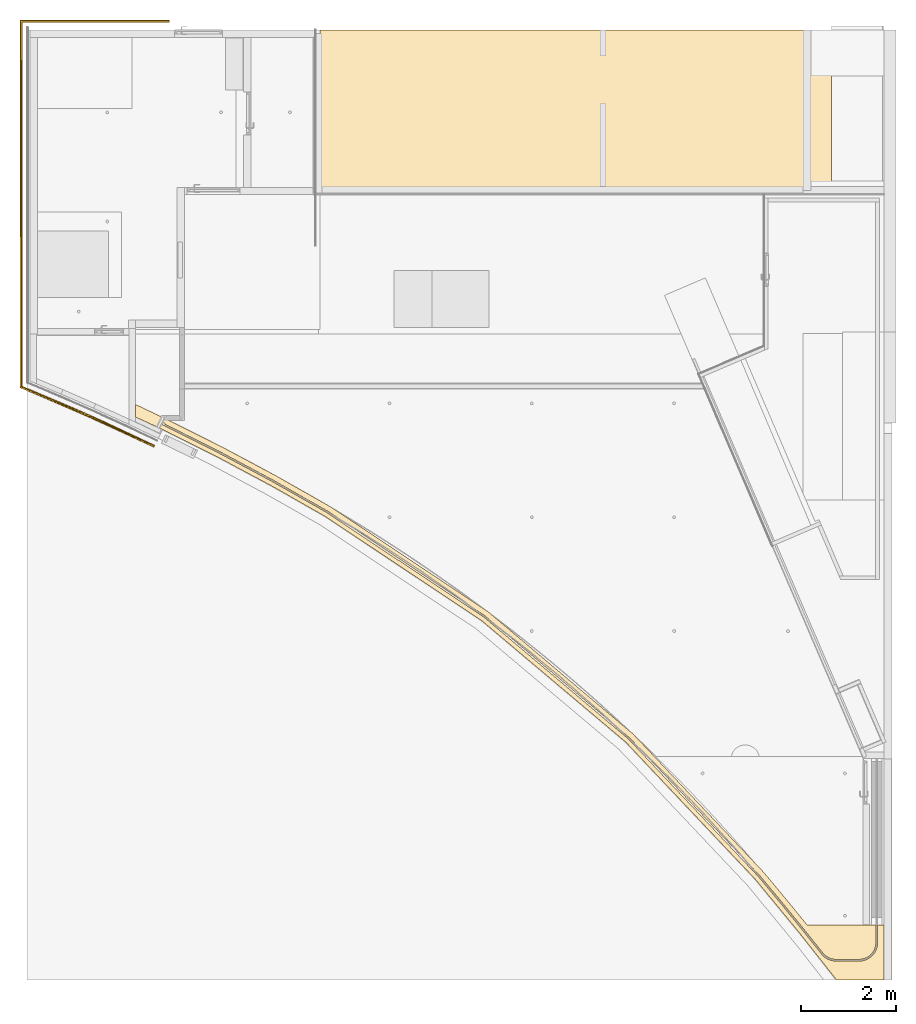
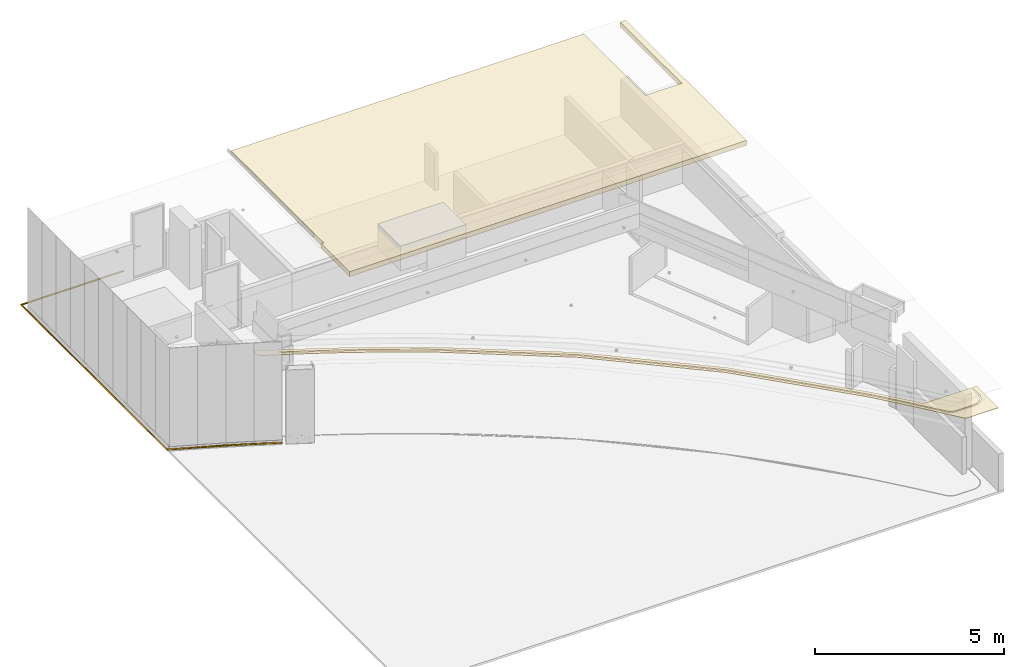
# One storey, part 11 of 16: 2 coverings, 1 railing.
"""IFC2X3 building model written with IfcOpenShell, lengths in millimetres."""

import ifcopenshell
import ifcopenshell.guid

model = None  # the IFC model being written
_history = None  # IfcOwnerHistory: only IFC2X3 demands one
_inside = {}  # id of a spatial element -> (the spatial element, [elements in it])
_under = {}  # id of a project, library or spatial element -> (it, [spatial elements below it])
_declared = {}  # id of a project -> (the project, [libraries it declares])
_typed = {}  # id of a type object -> (the type object, [elements of that type])
_made_of = {}  # id of a material, layer set ... -> (it, [elements and type objects made of it])


def new_model(schema):
    """Start an empty IFC model of exactly this schema.

    Asked for "IFC4X3", IfcOpenShell would pick the latest addendum, in which some entities
    have other attributes; the version numbers below select the first issue.
    IFC2X3 requires an IfcOwnerHistory on every rooted entity: one is made here for all.
    """
    global model, _history
    if schema == "IFC4X3":
        model = ifcopenshell.file(schema_version=(4, 3, 0, 0))
    else:
        model = ifcopenshell.file(schema=schema)
    _inside.clear()
    _under.clear()
    _declared.clear()
    _typed.clear()
    _made_of.clear()
    _history = None
    if model.schema == "IFC2X3":
        org = make("IfcOrganization", Name="unknown")
        user = make(
            "IfcPersonAndOrganization",
            ThePerson=make("IfcPerson", FamilyName="unknown"),
            TheOrganization=org,
        )
        app = make(
            "IfcApplication",
            ApplicationDeveloper=org,
            Version="unknown",
            ApplicationFullName="unknown",
            ApplicationIdentifier="unknown",
        )
        _history = make(
            "IfcOwnerHistory",
            OwningUser=user,
            OwningApplication=app,
            ChangeAction="ADDED",
            CreationDate=0,
        )
    return model


def make(cls, **values):
    """One entity of the class cls with the attributes given. An attribute that is None is left unset."""
    return model.create_entity(
        cls, **{name: value for name, value in values.items() if value is not None}
    )


def entity(cls, *values):
    """Any entity or typed value of the class cls, its attributes in the order of the schema. None: left unset."""
    e = model.create_entity(cls)
    for i, value in enumerate(values):
        if value is not None:
            e[i] = value
    return e


def rooted(cls, **values):
    """An entity with a GlobalId (a new one), such as an element, a storey or a relation."""
    return make(cls, GlobalId=ifcopenshell.guid.new(), OwnerHistory=_history, **values)


def si_unit(unit_type, name, prefix=None):
    """IfcSIUnit, for example si_unit("LENGTHUNIT", "METRE", prefix="MILLI")."""
    return make("IfcSIUnit", UnitType=unit_type, Prefix=prefix, Name=name)


def converted_unit(unit_type, name, factor, base, dimensions=None, offset=None):
    """IfcConversionBasedUnit, such as the inch: factor (a typed value) times the base unit."""
    return make(
        "IfcConversionBasedUnit"
        if offset is None
        else "IfcConversionBasedUnitWithOffset",
        ConversionOffset=offset,
        Dimensions=None
        if dimensions is None
        else entity("IfcDimensionalExponents", *dimensions),
        UnitType=unit_type,
        Name=name,
        ConversionFactor=make(
            "IfcMeasureWithUnit", ValueComponent=factor, UnitComponent=base
        ),
    )


def derived_unit(unit_type, elements):
    """IfcDerivedUnit: a product of units, each with its exponent."""
    return make(
        "IfcDerivedUnit",
        Elements=[
            make("IfcDerivedUnitElement", Unit=unit, Exponent=power)
            for unit, power in elements
        ],
        UnitType=unit_type,
    )


def assignment(units):
    """IfcUnitAssignment: the units of a project."""
    return None if units is None else make("IfcUnitAssignment", Units=units)


def point(xyz):
    """IfcCartesianPoint."""
    return None if xyz is None else make("IfcCartesianPoint", Coordinates=xyz)


def direction(xyz):
    """IfcDirection."""
    return None if xyz is None else make("IfcDirection", DirectionRatios=xyz)


def frame(location, z_axis=None, x_axis=None):
    """IfcAxis2Placement3D, a coordinate frame: its origin and axes. An axis left out is left unset."""
    return make(
        "IfcAxis2Placement3D",
        Location=point(location),
        Axis=direction(z_axis),
        RefDirection=direction(x_axis),
    )


def origin_with_axes():
    """The frame at (0, 0, 0) with the z axis (0, 0, 1) and the x axis (1, 0, 0) written out."""
    return frame((0.0, 0.0, 0.0), z_axis=(0.0, 0.0, 1.0), x_axis=(1.0, 0.0, 0.0))


def place(relative_to, where):
    """IfcLocalPlacement: puts the frame where relative to a parent placement (None: the world)."""
    return make(
        "IfcLocalPlacement", PlacementRelTo=relative_to, RelativePlacement=where
    )


def context(
    kind, dimensions, precision=None, world=None, true_north=None, identifier=None
):
    """IfcGeometricRepresentationContext, for example the 3D "Model" context."""
    return make(
        "IfcGeometricRepresentationContext",
        ContextIdentifier=identifier,
        ContextType=kind,
        CoordinateSpaceDimension=dimensions,
        Precision=precision,
        WorldCoordinateSystem=world,
        TrueNorth=true_north,
    )


def subcontext(parent, identifier, kind, view, scale=None):
    """IfcGeometricRepresentationSubContext, for example "Body" below "Model"."""
    return make(
        "IfcGeometricRepresentationSubContext",
        ContextIdentifier=identifier,
        ContextType=kind,
        ParentContext=parent,
        TargetScale=scale,
        TargetView=view,
    )


def project(units=None, contexts=None):
    """IfcProject with its units and contexts."""
    return rooted(
        "IfcProject",
        Name="project",
        RepresentationContexts=contexts,
        UnitsInContext=assignment(units),
    )


def spatial(cls, under=None, at=None, **own):
    """A site, building, storey or space (cls), placed at a placement, below another one or the project."""
    s = rooted(cls, ObjectPlacement=at, **own)
    if under is not None:
        _under.setdefault(under.id(), (under, []))[1].append(s)
    return s


def faces_of(points, faces, orient=None, outer=None):
    """IfcFace entities. A face is a list of loops; a loop is a list of indices into points, from 0.

    orient and outer hold one flag for each loop. By default every Orientation is true, the
    first loop of a face is its IfcFaceOuterBound and the others are IfcFaceBound.
    """
    made = []
    for i, loops in enumerate(faces):
        bounds = []
        for j, loop in enumerate(loops):
            is_outer = j == 0 if outer is None else outer[i][j]
            bounds.append(
                make(
                    "IfcFaceOuterBound" if is_outer else "IfcFaceBound",
                    Bound=make("IfcPolyLoop", Polygon=[points[k] for k in loop]),
                    Orientation=True if orient is None else orient[i][j],
                )
            )
        made.append(make("IfcFace", Bounds=bounds))
    return made


def faceted_brep(points, faces, orient=None, outer=None, voids=None):
    """IfcFacetedBrep: a solid bounded by flat faces; with voids (closed shells), ...WithVoids."""
    shared = [point(p) for p in points]
    hull = make("IfcClosedShell", CfsFaces=faces_of(shared, faces, orient, outer))
    if voids is None:
        return make("IfcFacetedBrep", Outer=hull)
    return make(
        "IfcFacetedBrepWithVoids",
        Outer=hull,
        Voids=[
            make(cls, CfsFaces=faces_of(shared, fs, o, b)) for cls, fs, o, b in voids
        ],
    )


def shape(context_of_items, identifier, shape_type, items):
    """IfcShapeRepresentation: the items that make up one representation, for example the "Body"."""
    return make(
        "IfcShapeRepresentation",
        ContextOfItems=context_of_items,
        RepresentationIdentifier=identifier,
        RepresentationType=shape_type,
        Items=items,
    )


def material(Name=None, Category=None):
    """IfcMaterial."""
    return make("IfcMaterial", Name=Name, Category=Category)


def made_of(thing, what):
    """Note that an element or type object is made of a material, layer set ...; save() writes the relation."""
    if what is not None:
        _made_of.setdefault(what.id(), (what, []))[1].append(thing)
    return thing


def type_object(cls, material=None, **own):
    """A type object (cls), such as IfcWallType, which elements share."""
    return made_of(rooted(cls, **own), material)


def element(
    cls,
    number,
    at=None,
    inside=None,
    cuts=None,
    type_object=None,
    material=None,
    context=None,
    identifier="Body",
    shape_type=None,
    held_by="IfcProductDefinitionShape",
    body=None,
    shapes=None,
    **own,
):
    """One element of the class cls, such as IfcWall. Its Tag is "e" and its number.

    at: its placement. inside: the storey or other place that contains it. cuts: it is an
    opening in that element (IfcRelVoidsElement). A single representation is given by context,
    identifier, shape_type and body (its items); several are given by shapes. held_by: the class
    of the entity that holds the representations. save() writes the other relations.
    """
    e = rooted(cls, Tag="e%d" % number, ObjectPlacement=at, **own)
    if body is not None:
        shapes = [shape(context, identifier, shape_type, body)]
    if shapes is not None:
        e.Representation = make(held_by, Representations=shapes)
    if inside is not None:
        _inside.setdefault(inside.id(), (inside, []))[1].append(e)
    if cuts is not None:
        rooted(
            "IfcRelVoidsElement", RelatingBuildingElement=cuts, RelatedOpeningElement=e
        )
    if type_object is not None:
        _typed.setdefault(type_object.id(), (type_object, []))[1].append(e)
    return made_of(e, material)


def aggregate(whole, parts):
    """IfcRelAggregates: a whole, such as a stair, and the parts it consists of."""
    return rooted("IfcRelAggregates", RelatingObject=whole, RelatedObjects=parts)


def save(model, path):
    """Write the relations noted so far, then the file.

    IfcRelAggregates (storeys below a building ...), IfcRelContainedInSpatialStructure (elements
    in a storey), IfcRelDefinesByType, IfcRelAssociatesMaterial and IfcRelDeclares: one each for
    every whole, place, type object, material and project.
    """
    for whole, parts in _under.values():
        aggregate(whole, parts)
    for where, things in _inside.values():
        rooted(
            "IfcRelContainedInSpatialStructure",
            RelatedElements=things,
            RelatingStructure=where,
        )
    for kind, things in _typed.values():
        rooted("IfcRelDefinesByType", RelatedObjects=things, RelatingType=kind)
    for what, things in _made_of.values():
        rooted("IfcRelAssociatesMaterial", RelatedObjects=things, RelatingMaterial=what)
    for by, libraries in _declared.values():
        rooted("IfcRelDeclares", RelatingContext=by, RelatedDefinitions=libraries)
    model.write(path)


model = new_model("IFC2X3")

# Units and contexts
model_context = context("Model", 3, precision=0.01, world=frame((0.0, 4.29681676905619e-09, 0.0)), true_north=direction((4.01073788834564e-13, 1.0)))
plan_context = context("Plan", 3, precision=0.01, world=frame((0.0, 4.29681676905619e-09, 0.0)), true_north=direction((4.01073788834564e-13, 1.0)))
body_context = subcontext(model_context, "Body", "Model", "MODEL_VIEW")
ifc_project = project(units=[converted_unit("PLANEANGLEUNIT", "DEGREE", entity("IfcPositiveLengthMeasure", 0.0174532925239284), si_unit("PLANEANGLEUNIT", "RADIAN"), dimensions=[0, 0, 0, 0, 0, 0, 0]), si_unit("AREAUNIT", "SQUARE_METRE"), si_unit("LENGTHUNIT", "METRE", prefix="MILLI"), si_unit("MASSUNIT", "GRAM", prefix="KILO"), si_unit("POWERUNIT", "WATT"), si_unit("PRESSUREUNIT", "PASCAL"), si_unit("FORCEUNIT", "NEWTON", prefix="KILO"), si_unit("ELECTRICCURRENTUNIT", "AMPERE"), si_unit("THERMODYNAMICTEMPERATUREUNIT", "DEGREE_CELSIUS"), si_unit("TIMEUNIT", "SECOND"), si_unit("VOLUMEUNIT", "CUBIC_METRE"), derived_unit("LINEARVELOCITYUNIT", [(si_unit("LENGTHUNIT", "METRE"), 1), (si_unit("TIMEUNIT", "SECOND"), -1)]), derived_unit("VOLUMETRICFLOWRATEUNIT", [(si_unit("VOLUMEUNIT", "CUBIC_METRE"), 1), (si_unit("TIMEUNIT", "SECOND"), -1)]), derived_unit("THERMALTRANSMITTANCEUNIT", [(si_unit("POWERUNIT", "WATT"), 1), (si_unit("THERMODYNAMICTEMPERATUREUNIT", "KELVIN"), -1), (si_unit("AREAUNIT", "SQUARE_METRE"), -1)])], contexts=[model_context, plan_context])

# Site, building, storey
site_placement = place(None, origin_with_axes())
site = spatial("IfcSite", under=ifc_project, at=site_placement, Name="ENGM", CompositionType="ELEMENT")
building_placement = place(site_placement, origin_with_axes())
building = spatial("IfcBuilding", under=site, at=building_placement, Name="TS", CompositionType="ELEMENT")
storey_placement = place(building_placement, frame((0.0, 0.0, 204000.0), z_axis=(0.0, 0.0, 1.0), x_axis=(1.0, 0.0, 0.0)))
storey = spatial("IfcBuildingStorey", under=building, at=storey_placement, Name="Nivå D", CompositionType="ELEMENT", Elevation=204000.0)

# Coverings
covering_type_1 = type_object("IfcCoveringType", Name="Compound Ceiling:A255 - Brannskille NY  - 50 mm brannisol. + TRP 70 mm + 3lag gips", PredefinedType="CEILING")
covering_1_placement = place(storey_placement, origin_with_axes())
element("IfcCovering", 1, at=covering_1_placement, inside=storey, type_object=covering_type_1, Name="Compound Ceiling:A255 - Brannskille NY  - 50 mm brannisol. + TRP 70 mm + 3lag gips", ObjectType="Compound Ceiling:A255 - Brannskille NY  - 50 mm brannisol. + TRP 70 mm + 3lag gips", PredefinedType="CEILING", context=body_context, shape_type="Brep", body=[
    faceted_brep([(530814.510364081, 417600.000000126, 2875.05682846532), (530814.510364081, 417600.000000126, 3032.55682846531), (530814.510364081, 417686.854764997, 3032.55682846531), (530814.510364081, 417686.854764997, 2875.05682846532), (530814.510364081, 420870.191453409, 3032.55682846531), (530814.510364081, 420870.191453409, 2875.05682846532), (531925.000000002, 420870.191453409, 2875.05682846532), (531925.000000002, 420870.191453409, 3032.55682846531), (531925.000000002, 417600.000000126, 3032.55682846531), (531925.000000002, 417600.000000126, 2875.05682846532), (520040.0, 420870.191453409, 2875.05682846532), (520040.0, 420870.191453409, 3032.55682846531), (520040.0, 415959.999999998, 3032.55682846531), (520040.0, 415959.999999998, 2875.05682846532), (519960.016015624, 415959.999999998, 3032.55682846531), (519960.016015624, 415959.999999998, 2875.05682846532), (519960.016015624, 414458.999999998, 3032.55682846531), (519960.016015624, 414458.999999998, 2875.05682846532), (532095.000000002, 414458.999999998, 3032.55682846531), (532095.000000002, 414458.999999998, 2875.05682846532), (532095.000000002, 420870.191453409, 2875.05682846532), (532095.000000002, 420870.191453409, 3032.55682846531)], [[[0, 1, 2, 3]], [[4, 5, 3, 2]], [[6, 7, 8, 9]], [[9, 8, 1, 0]], [[10, 11, 12, 13]], [[13, 12, 14, 15]], [[15, 14, 16, 17]], [[18, 19, 17, 16]], [[19, 20, 6, 9, 0, 5, 10, 13, 15, 17]], [[11, 4, 1, 8, 7, 21, 18, 16, 14, 12]], [[20, 19, 18, 21]], [[21, 7, 6, 20]], [[11, 10, 5, 4]]], orient=[[False], [False], [False], [False], [False], [False], [False], [False], [False], [False], [False], [False], [False]]),
])
covering_type_2 = type_object("IfcCoveringType", Name="Compound Ceiling:A255 - HI-G01", PredefinedType="CEILING")
covering_2_placement = place(storey_placement, origin_with_axes())
element("IfcCovering", 2, at=covering_2_placement, inside=storey, type_object=covering_type_2, Name="Compound Ceiling:A255 - HI-G01", ObjectType="Compound Ceiling:A255 - HI-G01", PredefinedType="CEILING", context=body_context, shape_type="Brep", body=[
    faceted_brep([(516816.716614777, 412657.875272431, 2700.0), (516816.716614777, 412657.875272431, 2715.00000000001), (516149.500000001, 412975.72287953, 2715.00000000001), (516149.500000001, 412975.72287953, 2700.0), (530307.282336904, 401999.999999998, 2700.0), (530307.282336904, 401999.999999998, 2715.00000000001), (530001.677511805, 402376.306918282, 2715.00000000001), (530001.677511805, 402376.306918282, 2700.0), (529693.352522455, 402750.388335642, 2715.00000000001), (529693.352522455, 402750.388335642, 2700.0), (529382.32357505, 403122.224589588, 2715.00000000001), (529382.32357505, 403122.224589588, 2700.0), (526636.859621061, 406028.956311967, 2715.00000000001), (526636.859621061, 406028.956311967, 2700.0), (523580.298113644, 408606.570204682, 2715.00000000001), (523580.298113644, 408606.570204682, 2700.0), (520251.853086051, 410821.996873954, 2715.00000000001), (520251.853086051, 410821.996873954, 2700.0), (519123.174259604, 411464.257238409, 2715.00000000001), (519123.174259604, 411464.257238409, 2700.0), (517977.860237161, 412076.360219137, 2715.00000000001), (517977.860237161, 412076.360219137, 2700.0), (516149.500000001, 412709.881691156, 2715.00000000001), (516149.500000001, 412709.881691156, 2700.0), (516717.148195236, 412450.122353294, 2715.00000000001), (516717.148195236, 412450.122353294, 2700.0), (517872.819364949, 411871.326344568, 2715.00000000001), (517872.819364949, 411871.326344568, 2700.0), (519012.731784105, 411262.080623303, 2715.00000000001), (519012.731784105, 411262.080623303, 2700.0), (520136.08334028, 410622.813892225, 2715.00000000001), (520136.08334028, 410622.813892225, 2700.0), (523443.044877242, 408421.913320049, 2715.00000000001), (523443.044877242, 408421.913320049, 2700.0), (526479.811852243, 405861.053254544, 2715.00000000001), (526479.811852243, 405861.053254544, 2700.0), (529207.399637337, 402973.108861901, 2715.00000000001), (529207.399637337, 402973.108861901, 2700.0), (530137.586345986, 401844.208629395, 2715.00000000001), (530137.586345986, 401844.208629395, 2700.0), (530924.193231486, 400845.676658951, 2715.00000000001), (530924.193231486, 400845.676658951, 2700.0), (531922.500000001, 400845.676658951, 2700.0), (531922.500000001, 400845.676658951, 2715.00000000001), (531922.500000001, 401999.999999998, 2715.00000000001), (531922.500000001, 401999.999999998, 2700.0), (531787.000000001, 401999.999999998, 2715.00000000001), (531787.000000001, 401999.999999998, 2700.0), (531787.000000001, 401595.803834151, 2715.00000000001), (531787.000000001, 401595.803834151, 2700.0), (531775.427645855, 401533.258689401, 2715.00000000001), (531775.427645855, 401533.258689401, 2700.0), (531753.842428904, 401473.42648301, 2715.00000000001), (531753.842428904, 401473.42648301, 2700.0), (531722.818509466, 401417.898733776, 2715.00000000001), (531722.818509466, 401417.898733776, 2700.0), (531683.181114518, 401368.152463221, 2715.00000000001), (531683.181114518, 401368.152463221, 2700.0), (531635.984586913, 401325.510907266, 2715.00000000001), (531635.984586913, 401325.510907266, 2700.0), (531582.484340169, 401291.108318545, 2715.00000000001), (531582.484340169, 401291.108318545, 2700.0), (531524.10346485, 401265.85979563, 2715.00000000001), (531524.10346485, 401265.85979563, 2700.0), (531462.394874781, 401250.43694168, 2715.00000000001), (531462.394874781, 401250.43694168, 2700.0), (531399.000000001, 401245.249999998, 2715.00000000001), (531399.000000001, 401245.249999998, 2700.0), (530911.000000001, 401245.249999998, 2715.00000000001), (530911.000000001, 401245.249999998, 2700.0), (530849.90544654, 401250.065037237, 2715.00000000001), (530849.90544654, 401250.065037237, 2700.0), (530790.319470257, 401264.391253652, 2715.00000000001), (530790.319470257, 401264.391253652, 2700.0), (530733.713397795, 401287.874899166, 2715.00000000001), (530733.713397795, 401287.874899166, 2700.0), (530681.484974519, 401319.936103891, 2715.00000000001), (530681.484974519, 401319.936103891, 2700.0), (530634.923850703, 401359.783196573, 2715.00000000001), (530634.923850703, 401359.783196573, 2700.0), (530186.943220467, 401921.42587565, 2715.00000000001), (530186.943220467, 401921.42587565, 2700.0), (529732.941225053, 402478.212488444, 2715.00000000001), (529732.941225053, 402478.212488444, 2700.0), (529272.970499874, 403030.078483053, 2715.00000000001), (529272.970499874, 403030.078483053, 2700.0), (526538.628397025, 405925.035059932, 2715.00000000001), (526538.628397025, 405925.035059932, 2700.0), (523494.448994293, 408492.207060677, 2715.00000000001), (523494.448994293, 408492.207060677, 2700.0), (520179.487469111, 410698.659055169, 2715.00000000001), (520179.487469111, 410698.659055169, 2700.0), (519039.491673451, 411347.101310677, 2715.00000000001), (519039.491673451, 411347.101310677, 2700.0), (517882.489563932, 411964.688463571, 2715.00000000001), (517882.489563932, 411964.688463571, 2700.0), (516709.31606769, 412550.974844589, 2715.00000000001), (516709.31606769, 412550.974844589, 2700.0), (516730.683951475, 412595.843195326, 2715.00000000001), (516730.683951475, 412595.843195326, 2700.0), (516775.904723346, 412574.307476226, 2715.00000000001), (516775.904723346, 412574.307476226, 2700.0), (516769.036182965, 412559.856849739, 2715.00000000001), (516769.036182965, 412559.856849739, 2700.0), (517927.652318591, 411979.612193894, 2715.00000000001), (517927.652318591, 411979.612193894, 2700.0), (519070.472657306, 411368.844739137, 2715.00000000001), (519070.472657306, 411368.844739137, 2700.0), (520196.693280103, 410727.984130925, 2715.00000000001), (520196.693280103, 410727.984130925, 2700.0), (523514.860673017, 408519.398297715, 2715.00000000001), (523514.860673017, 408519.398297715, 2700.0), (526561.984072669, 405949.743609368, 2715.00000000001), (526561.984072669, 405949.743609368, 2700.0), (529298.970531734, 403051.987347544, 2715.00000000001), (529298.970531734, 403051.987347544, 2700.0), (529754.854736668, 402505.080873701, 2715.00000000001), (529754.854736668, 402505.080873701, 2700.0), (530204.879989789, 401953.343281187, 2715.00000000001), (530204.879989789, 401953.343281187, 2700.0), (530648.995098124, 401396.837333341, 2715.00000000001), (530648.995098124, 401396.837333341, 2700.0), (530691.964234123, 401356.357177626, 2715.00000000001), (530691.964234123, 401356.357177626, 2700.0), (530741.094086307, 401323.627263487, 2715.00000000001), (530741.094086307, 401323.627263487, 2700.0), (530795.002802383, 401299.568169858, 2715.00000000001), (530795.002802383, 401299.568169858, 2700.0), (530852.174117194, 401284.856595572, 2715.00000000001), (530852.174117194, 401284.856595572, 2700.0), (530911.000000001, 401279.906326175, 2715.00000000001), (530911.000000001, 401279.906326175, 2700.0), (531401.000000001, 401279.906326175, 2715.00000000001), (531401.000000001, 401279.906326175, 2700.0), (531456.064931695, 401284.240030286, 2715.00000000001), (531456.064931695, 401284.240030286, 2700.0), (531509.773982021, 401297.134432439, 2715.00000000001), (531509.773982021, 401297.134432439, 2700.0), (531560.80465591, 401318.272029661, 2715.00000000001), (531560.80465591, 401318.272029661, 2700.0), (531607.900408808, 401347.132344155, 2715.00000000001), (531607.900408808, 401347.132344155, 2700.0), (531649.901586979, 401383.004739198, 2715.00000000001), (531649.901586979, 401383.004739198, 2700.0), (531685.773982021, 401425.005917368, 2715.00000000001), (531685.773982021, 401425.005917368, 2700.0), (531714.634296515, 401472.101670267, 2715.00000000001), (531714.634296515, 401472.101670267, 2700.0), (531735.771893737, 401523.132344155, 2715.00000000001), (531735.771893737, 401523.132344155, 2700.0), (531748.666295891, 401576.841394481, 2715.00000000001), (531748.666295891, 401576.841394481, 2700.0), (531753.000000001, 401631.906326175, 2715.00000000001), (531753.000000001, 401631.906326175, 2700.0), (531753.000000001, 401999.999999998, 2715.00000000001), (531753.000000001, 401999.999999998, 2700.0)], [[[0, 1, 2, 3]], [[4, 5, 6, 7]], [[7, 6, 8, 9]], [[9, 8, 10, 11]], [[11, 10, 12, 13]], [[13, 12, 14, 15]], [[15, 14, 16, 17]], [[17, 16, 18, 19]], [[19, 18, 20, 21]], [[21, 20, 1, 0]], [[3, 2, 22, 23]], [[23, 22, 24, 25]], [[25, 24, 26, 27]], [[27, 26, 28, 29]], [[29, 28, 30, 31]], [[31, 30, 32, 33]], [[33, 32, 34, 35]], [[35, 34, 36, 37]], [[37, 36, 38, 39]], [[40, 41, 39, 38]], [[42, 43, 44, 45]], [[45, 44, 46, 47]], [[47, 46, 48, 49]], [[49, 48, 50, 51]], [[51, 50, 52, 53]], [[53, 52, 54, 55]], [[55, 54, 56, 57]], [[57, 56, 58, 59]], [[59, 58, 60, 61]], [[61, 60, 62, 63]], [[63, 62, 64, 65]], [[65, 64, 66, 67]], [[67, 66, 68, 69]], [[69, 68, 70, 71]], [[71, 70, 72, 73]], [[73, 72, 74, 75]], [[75, 74, 76, 77]], [[77, 76, 78, 79]], [[79, 78, 80, 81]], [[81, 80, 82, 83]], [[83, 82, 84, 85]], [[85, 84, 86, 87]], [[87, 86, 88, 89]], [[89, 88, 90, 91]], [[91, 90, 92, 93]], [[93, 92, 94, 95]], [[95, 94, 96, 97]], [[97, 96, 98, 99]], [[99, 98, 100, 101]], [[101, 100, 102, 103]], [[103, 102, 104, 105]], [[105, 104, 106, 107]], [[107, 106, 108, 109]], [[109, 108, 110, 111]], [[111, 110, 112, 113]], [[113, 112, 114, 115]], [[115, 114, 116, 117]], [[117, 116, 118, 119]], [[119, 118, 120, 121]], [[121, 120, 122, 123]], [[123, 122, 124, 125]], [[125, 124, 126, 127]], [[127, 126, 128, 129]], [[129, 128, 130, 131]], [[131, 130, 132, 133]], [[133, 132, 134, 135]], [[135, 134, 136, 137]], [[137, 136, 138, 139]], [[139, 138, 140, 141]], [[141, 140, 142, 143]], [[143, 142, 144, 145]], [[145, 144, 146, 147]], [[147, 146, 148, 149]], [[149, 148, 150, 151]], [[151, 150, 152, 153]], [[153, 152, 154, 155]], [[155, 154, 5, 4]], [[41, 42, 45, 47, 49, 51, 53, 55, 57, 59, 61, 63, 65, 67, 69, 71, 73, 75, 77, 79, 81, 83, 85, 87, 89, 91, 93, 95, 97, 99, 101, 103, 105, 107, 109, 111, 113, 115, 117, 119, 121, 123, 125, 127, 129, 131, 133, 135, 137, 139, 141, 143, 145, 147, 149, 151, 153, 155, 4, 7, 9, 11, 13, 15, 17, 19, 21, 0, 3, 23, 25, 27, 29, 31, 33, 35, 37, 39]], [[43, 40, 38, 36, 34, 32, 30, 28, 26, 24, 22, 2, 1, 20, 18, 16, 14, 12, 10, 8, 6, 5, 154, 152, 150, 148, 146, 144, 142, 140, 138, 136, 134, 132, 130, 128, 126, 124, 122, 120, 118, 116, 114, 112, 110, 108, 106, 104, 102, 100, 98, 96, 94, 92, 90, 88, 86, 84, 82, 80, 78, 76, 74, 72, 70, 68, 66, 64, 62, 60, 58, 56, 54, 52, 50, 48, 46, 44]], [[43, 42, 41, 40]]], orient=[[False], [False], [False], [False], [False], [False], [False], [False], [False], [False], [False], [False], [False], [False], [False], [False], [False], [False], [False], [False], [False], [False], [False], [False], [False], [False], [False], [False], [False], [False], [False], [False], [False], [False], [False], [False], [False], [False], [False], [False], [False], [False], [False], [False], [False], [False], [False], [False], [False], [False], [False], [False], [False], [False], [False], [False], [False], [False], [False], [False], [False], [False], [False], [False], [False], [False], [False], [False], [False], [False], [False], [False], [False], [False], [False], [False], [False], [False], [False], [False]]),
])

# Railing
ifc_material = material(Name="<Unnamed>")
railing_type = type_object("IfcRailingType", Name="Railing:A247 Fendring - FE-S01 - Avviser, montert m. brakett mot dekke, 1 rør Ø=49 mm", PredefinedType="NOTDEFINED")
railing_placement = place(storey_placement, frame((513710.904727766, 412070.455411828, 120.404727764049), z_axis=(0.0, 0.0, 1.0), x_axis=(1.0, 0.0, 0.0)))
element("IfcRailing", 3, at=railing_placement, inside=storey, type_object=railing_type, material=ifc_material, Name="Railing:A247 Fendring - FE-S01 - Avviser, montert m. brakett mot dekke, 1 rør Ø=49 mm", ObjectType="Railing:A247 Fendring - FE-S01 - Avviser, montert m. brakett mot dekke, 1 rør Ø=49 mm", PredefinedType="NOTDEFINED", context=body_context, shape_type="Brep", body=[
    faceted_brep([(10.9702722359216, 9000.36104158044, 42.8332485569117), (12.4644629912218, 1266.32006093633, 35.8504339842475), (13.0626681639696, 1266.72210427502, 36.3598082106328), (16.0875265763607, 1268.75505923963, 38.9354879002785), (33.2067173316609, 1280.26003130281, 48.1906496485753), (39.0952722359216, 8972.23604158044, 48.2459073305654), (32.8452722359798, 8978.4860415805, 48.2459073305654), (14.0952722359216, 8997.23604158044, 48.2459073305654), (42.2202722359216, 8969.11104158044, 42.8332485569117), (38.4605901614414, 1283.78998900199, 42.0205418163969), (40.7085930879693, 1285.29989713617, 39.3805044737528), (45.3452722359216, 8965.98604158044, 37.420589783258), (43.7144629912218, 1287.31994670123, 35.8504339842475), (44.0848638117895, 1287.5681786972, 35.415438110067), (8.84139940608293, 1263.88506263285, 32.7653800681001), (7.84527223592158, 9003.48604158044, 37.420589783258), (5.29019435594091, 9006.04111946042, 32.9950650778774), (4.72027223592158, 9006.61104158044, 32.0079310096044), (30.5797809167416, 1278.49505245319, 51.2757035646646), (35.8336537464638, 1282.02501015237, 45.1055957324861), (37.3323223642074, 1283.03161557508, 43.3455708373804), (33.9560516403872, 1280.7633340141, 47.310637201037), (41.0875265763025, 1285.55496785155, 38.9354879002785), (46.3413994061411, 1289.08492555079, 32.7653800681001), (48.4702722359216, 8962.86104158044, 32.0079310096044), (20.3452722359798, 8990.98604158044, 48.2459073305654), (26.9567173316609, 1276.06005414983, 48.1906496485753), (26.5952722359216, 8984.73604158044, 48.2459073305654), (47.8400680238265, 1290.09103932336, 31.0053551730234), (5.21833582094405, 1261.45006432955, 29.6803261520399), (1.59527223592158, 9009.73604158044, 26.5952722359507), (1.59527223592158, 1259.01506602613, 26.5952722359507), (19.7105901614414, 1271.19005754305, 42.0205418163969), (10.0378097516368, 1264.68914931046, 33.7841285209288), (23.333653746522, 1273.62505584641, 45.1055957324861), (48.9683358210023, 1290.84990440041, 29.6803261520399), (51.5952722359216, 8959.73604158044, 26.5952722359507), (51.5952722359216, 1292.61488325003, 26.5952722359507), (5.8165409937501, 1261.85210766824, 30.1897003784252), (42.2202722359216, 8969.11104158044, 10.3572959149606), (40.7253259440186, 1285.31070186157, 17.3402324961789), (40.1272782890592, 1284.90889118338, 16.8310345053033), (37.102010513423, 1282.8763024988, 14.2552192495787), (4.72027223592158, 9006.61104158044, 21.182613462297), (3.46927738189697, 1260.27551885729, 24.3942730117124), (19.98206422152, 1271.37337245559, 5.00017950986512), (14.0952722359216, 8997.23604158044, 4.94463714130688), (20.3452722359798, 8990.98604158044, 4.94463714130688), (22.6087487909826, 1273.13870504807, 1.91516626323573), (6.84864137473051, 1262.5467094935, 20.4252457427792), (5.3503337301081, 1261.53892888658, 22.1849922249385), (7.84527223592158, 9003.48604158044, 15.7699546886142), (10.9702722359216, 9000.36104158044, 10.3572959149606), (12.102010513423, 1266.07737467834, 14.2552192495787), (14.7286950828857, 1267.84270727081, 11.1702060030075), (12.4812336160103, 1266.3317700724, 13.80982572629), (17.3553796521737, 1269.60803986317, 8.0851927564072), (15.8570720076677, 1268.60074839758, 9.84493923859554), (19.232910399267, 1270.86972672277, 5.88005275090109), (39.0952722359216, 8972.23604158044, 4.94463714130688), (45.3452722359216, 8965.98604158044, 15.7699546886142), (44.3486413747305, 1287.74510122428, 20.4252457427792), (47.9003501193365, 8963.43096369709, 20.1954793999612), (48.4702722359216, 8962.86104158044, 21.182613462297), (47.9719568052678, 1290.17950058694, 23.5102589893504), (47.3739091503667, 1289.77768990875, 23.0010609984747), (9.47532594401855, 1264.31204208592, 17.3402324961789), (9.10539522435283, 1264.06279174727, 17.7747122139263), (33.4786950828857, 1280.4419031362, 11.1702060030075), (43.1525460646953, 1286.94147986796, 19.4068497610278), (29.8553796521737, 1278.00750377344, 8.0851927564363), (26.2320642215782, 1275.57310441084, 5.00017950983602), (32.8452722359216, 8978.48604158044, 4.94463714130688), (26.5952722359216, 8984.73604158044, 4.94463714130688), (5.29019435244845, 9006.04111946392, 20.1954793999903), (3151.59527223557, 8959.7360415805, 26.5952722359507), (3151.59527223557, 8963.43096692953, 20.1954738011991), (3151.59527223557, 8967.12589227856, 13.7956753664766), (3151.59527223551, 8969.68096692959, 9.37015625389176), (3151.59527223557, 8972.2360415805, 4.94463714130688), (3151.59527223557, 8978.4860415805, 4.94463714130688), (3151.59527223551, 8984.7360415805, 4.94463714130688), (3151.59527223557, 8990.9860415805, 4.94463714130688), (3151.59527223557, 8997.2360415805, 4.94463714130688), (3151.59527223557, 9000.3610415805, 10.3572959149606), (3151.59527223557, 9003.4860415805, 15.7699546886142), (3151.59527223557, 9006.6110415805, 21.182613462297), (3151.59527223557, 9009.7360415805, 26.5952722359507), (3151.59527223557, 9006.6110415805, 32.0079310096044), (3151.59527223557, 9003.4860415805, 37.420589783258), (3151.59527223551, 9000.36104158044, 42.8332485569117), (3151.59527223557, 8997.2360415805, 48.2459073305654), (3151.59527223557, 8990.9860415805, 48.2459073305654), (3151.59527223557, 8984.7360415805, 48.2459073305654), (3151.59527223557, 8978.4860415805, 48.2459073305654), (3151.59527223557, 8972.2360415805, 48.2459073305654), (3151.59527223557, 8969.11104158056, 42.8332485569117), (3151.59527223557, 8965.9860415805, 37.420589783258), (3151.59527223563, 8963.43096692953, 32.9950706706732), (1330.97472781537, 699.190030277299, 11.6090131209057), (1424.81524587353, 653.972586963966, 17.3743716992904), (1751.36537498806, 505.588872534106, 21.9020742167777), (1455.33418894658, 691.244631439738, 17.3564224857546), (1140.18586733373, 831.848643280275, 21.8934406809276), (2844.13526725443, 42.78047218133, 23.0388500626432), (2829.81578853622, 13.2181147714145, 11.2071529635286), (2828.6898090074, 10.8935462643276, 14.2847768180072), (2827.25087783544, 7.92289360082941, 18.2177869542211), (1676.45935619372, 583.557395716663, 7.01268941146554), (2838.5933447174, 31.3392529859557, 12.3695835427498), (1339.09774735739, 729.33075502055, 4.06667409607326), (2842.28795974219, 38.9667324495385, 19.4824278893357), (1690.34379262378, 550.841706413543, 3.10144665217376), (1449.79995405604, 665.518710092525, 1.72255589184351), (2833.19372712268, 20.1918202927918, 1.97428140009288), (2824.18589089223, 1.59527223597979, 26.5952722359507), (1422.94549592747, 652.875918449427, 26.5952722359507), (1458.64439377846, 691.706436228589, 26.5952722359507), (2845.98257476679, 46.5942119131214, 26.5952722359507), (1477.08342735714, 640.398469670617, 6.11439030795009), (1453.83131471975, 687.877215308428, 11.0041175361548), (2825.81194666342, 4.95224093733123, 22.1507970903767), (2840.44065222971, 35.1529927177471, 15.9260057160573), (2832.06774759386, 17.8672517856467, 5.05190525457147), (2830.94176806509, 15.5426832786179, 8.12952910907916), (2834.54363152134, 22.9786784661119, 4.57310693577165), (1378.24899546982, 704.581435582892, 1.93078270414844), (2837.24344031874, 28.5523948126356, 9.77075800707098), (2835.89353592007, 25.7655366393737, 7.17193247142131), (1426.25725294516, 653.334000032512, 35.8250944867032), (1427.77023664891, 656.737294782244, 42.2280735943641), (2827.88050591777, 9.22275170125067, 33.7081165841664), (2836.97473853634, 27.9976638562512, 51.2162630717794), (1698.60780052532, 565.864127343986, 50.0888257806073), (1454.29425323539, 669.046397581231, 51.466630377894), (1773.3026264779, 549.561816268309, 31.2988148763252), (1097.53316176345, 796.895400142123, 31.2955509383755), (2840.35267712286, 34.9713693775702, 41.9833915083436), (2841.47865665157, 37.2959378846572, 38.905767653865), (2842.91758782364, 40.2665905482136, 34.9727575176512), (1359.59526063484, 730.298256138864, 41.5612317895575), (1456.77213445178, 690.603997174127, 35.833033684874), (1324.14269025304, 712.216294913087, 49.110575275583), (1669.23168507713, 552.725169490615, 46.1854891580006), (2831.57512094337, 16.850231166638, 40.8209609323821), (2826.03319840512, 5.40901196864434, 30.1516944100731), (2844.3565189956, 43.23724321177, 31.0397473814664), (2829.7278134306, 13.0364914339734, 37.2645387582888), (1495.54881973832, 663.552824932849, 47.0756151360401), (2838.10071806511, 30.3222323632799, 48.1386392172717), (2839.22669759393, 32.6468008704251, 45.0610153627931), (2835.62483413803, 25.2108056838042, 48.6174375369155), (1373.75589420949, 697.620788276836, 51.2562870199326), (2832.92502534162, 19.6370893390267, 43.4197864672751), (2834.27492973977, 22.4239475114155, 46.0186120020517)], [[[0, 1, 2, 3]], [[4, 5, 6]], [[3, 7, 0]], [[8, 9, 10]], [[11, 12, 13]], [[14, 15, 16, 17]], [[6, 18, 4]], [[5, 19, 20]], [[5, 4, 21]], [[15, 1, 0]], [[11, 8, 22]], [[11, 22, 12]], [[11, 23, 24]], [[25, 26, 27]], [[24, 23, 28]], [[29, 30, 31]], [[30, 29, 17]], [[7, 3, 32]], [[15, 14, 33, 1]], [[32, 34, 26, 25]], [[26, 18, 27]], [[5, 9, 8]], [[6, 27, 18]], [[35, 36, 24]], [[35, 37, 36]], [[17, 29, 38, 14]], [[7, 32, 25]], [[39, 40, 41, 42]], [[43, 44, 30]], [[45, 46, 47]], [[47, 48, 45]], [[43, 49, 50]], [[51, 52, 53]], [[52, 54, 55]], [[46, 56, 57]], [[46, 45, 58]], [[42, 59, 39]], [[60, 40, 39]], [[61, 60, 62, 63]], [[63, 64, 65, 61]], [[51, 66, 67]], [[36, 64, 63]], [[37, 64, 36]], [[59, 42, 68]], [[60, 61, 69, 40]], [[68, 70, 71, 72]], [[71, 48, 73]], [[47, 73, 48]], [[46, 54, 52]], [[51, 53, 66]], [[44, 31, 30]], [[49, 43, 74, 51]], [[72, 71, 73]], [[59, 68, 72]], [[75, 76, 77, 78, 79, 80, 81, 82, 83, 84, 85, 86, 87, 88, 89, 90, 91, 92, 93, 94, 95, 96, 97, 98]], [[80, 79, 59, 72, 73, 47, 46, 83, 82, 81]], [[60, 39, 59, 79, 78, 77, 76, 75, 36, 63, 62]], [[86, 85, 84, 83, 46, 52, 51, 74, 43, 30, 87]], [[5, 95, 94, 93, 92, 91, 7, 25, 27, 6]], [[36, 75, 98, 97, 96, 95, 5, 8, 11, 24]], [[7, 91, 90, 89, 88, 87, 30, 17, 16, 15, 0]], [[67, 99, 100]], [[100, 101, 50]], [[102, 103, 104]], [[105, 106, 107, 99]], [[108, 109, 110]], [[111, 102, 104]], [[112, 113, 114]], [[115, 116, 101]], [[117, 118, 104]], [[99, 119, 105]], [[37, 117, 103]], [[113, 48, 71]], [[100, 50, 49]], [[69, 102, 120]], [[116, 31, 44]], [[102, 69, 61, 65]], [[99, 107, 100]], [[101, 100, 121]], [[102, 65, 103]], [[120, 102, 111]], [[120, 111, 122]], [[120, 42, 41, 40, 69]], [[110, 68, 108]], [[119, 55, 54]], [[112, 114, 123, 124]], [[112, 124, 119]], [[55, 119, 99]], [[124, 105, 119]], [[48, 113, 112]], [[125, 126, 127, 128]], [[119, 58, 112]], [[71, 126, 113]], [[70, 126, 71]], [[126, 110, 127]], [[126, 125, 113]], [[126, 70, 110]], [[110, 109, 127]], [[108, 68, 42]], [[119, 57, 56]], [[99, 67, 66]], [[108, 122, 109]], [[107, 121, 100]], [[122, 108, 120]], [[115, 101, 121]], [[50, 101, 116]], [[103, 65, 64]], [[104, 103, 117]], [[42, 120, 108]], [[112, 58, 45]], [[125, 114, 113]], [[110, 70, 68]], [[33, 129, 130]], [[130, 129, 131]], [[132, 133, 134]], [[118, 117, 135]], [[134, 18, 26]], [[38, 136, 129]], [[137, 138, 139, 140]], [[141, 28, 23]], [[142, 143, 144]], [[116, 115, 145]], [[13, 140, 141]], [[131, 129, 145]], [[141, 146, 135]], [[117, 37, 35]], [[141, 135, 28]], [[31, 116, 136]], [[129, 136, 145]], [[129, 33, 14, 38]], [[130, 131, 147]], [[130, 3, 2, 1, 33]], [[140, 148, 137]], [[140, 139, 141]], [[142, 32, 143]], [[148, 10, 9]], [[133, 132, 149, 150]], [[133, 150, 148]], [[10, 148, 140]], [[150, 137, 148]], [[18, 134, 133]], [[151, 152, 153, 154]], [[148, 21, 133]], [[26, 152, 134]], [[34, 152, 26]], [[152, 142, 153]], [[152, 151, 134]], [[152, 34, 142]], [[142, 144, 153]], [[143, 32, 3]], [[118, 135, 146]], [[140, 13, 12]], [[143, 147, 144]], [[139, 146, 141]], [[147, 143, 130]], [[136, 38, 29, 31]], [[145, 136, 116]], [[3, 130, 143]], [[28, 135, 117]], [[148, 20, 19]], [[133, 21, 4]], [[151, 132, 134]], [[142, 34, 32]], [[125, 128, 127, 109, 122, 111, 104, 118, 146, 139, 138, 137, 150, 149, 132, 151, 154, 153, 144, 147, 131, 145, 115, 121, 107, 106, 105, 124, 123, 114]], [[8, 10, 22]], [[11, 13, 23]], [[5, 20, 9]], [[24, 28, 35]], [[5, 21, 19]], [[43, 50, 44]], [[52, 55, 53]], [[46, 57, 54]], [[51, 67, 49]], [[46, 58, 56]], [[100, 49, 67]], [[116, 44, 50]], [[119, 54, 57]], [[119, 56, 58]], [[99, 66, 53]], [[99, 53, 55]], [[103, 64, 37]], [[112, 45, 48]], [[141, 23, 13]], [[117, 35, 28]], [[148, 9, 20]], [[140, 12, 22]], [[140, 22, 10]], [[148, 19, 21]], [[133, 4, 18]]]),
])

save(model, "model.ifc")
